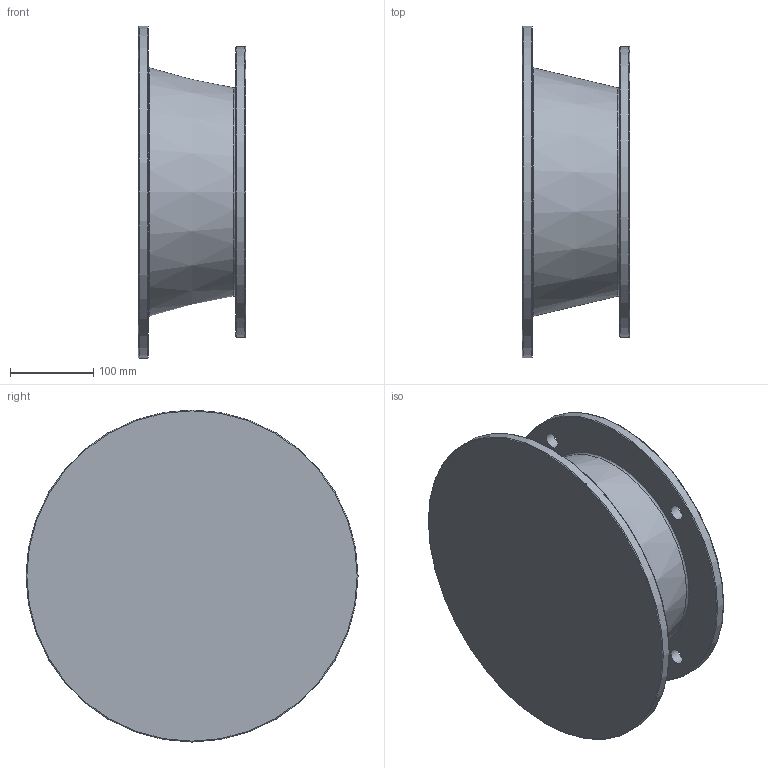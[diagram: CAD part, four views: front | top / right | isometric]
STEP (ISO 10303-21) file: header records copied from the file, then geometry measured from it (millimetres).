
FILE_DESCRIPTION((''),'2;1');
FILE_NAME('D:\PAWEŁ\ZLECENIA\2011 DualSystem\Przekładnie DR\DR130\STEP\160_B5_L129,5.stp','2012-06-11T12:40:28',('admin'),(''),'Autodesk Inventor 2009','Autodesk Inventor 2009','');
FILE_SCHEMA(('AUTOMOTIVE_DESIGN { 1 0 10303 214 1 1 1 1 }'));
Length unit declared in the file: millimetre
Products named in the file (1): 160_B5_L129,5
Bounding box: 129.5 x 400 x 400 mm (x, y, z)
Volume: 2939432.3 mm3; surface area: 603084.3 mm2
Topology: 1 solids, 1 shells, 30 faces, 58 edges, 36 vertices
Faces by surface type: plane 11, cylinder 6, bspline 6, torus 5, cone 2
Full cylindrical faces by diameter (mm): 72 x1, 237.668 x1, 250 x1, 350 x1, 400 x1
Entity records: 895 total; most frequent: CARTESIAN_POINT 281, DIRECTION 120, ORIENTED_EDGE 80, EDGE_LOOP 62, AXIS2_PLACEMENT_3D 55, EDGE_CURVE 40, VERTEX_POINT 36, FACE_BOUND 32
